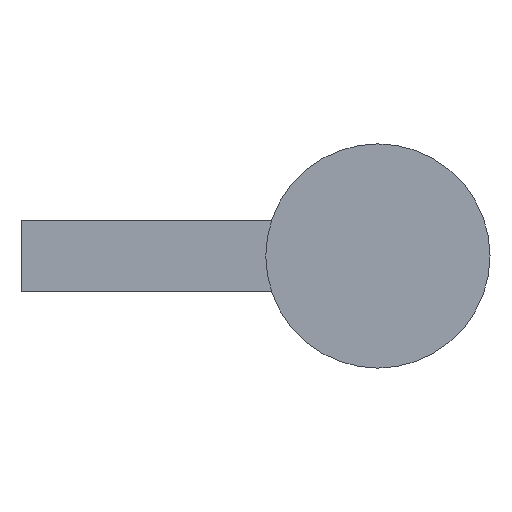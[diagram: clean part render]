
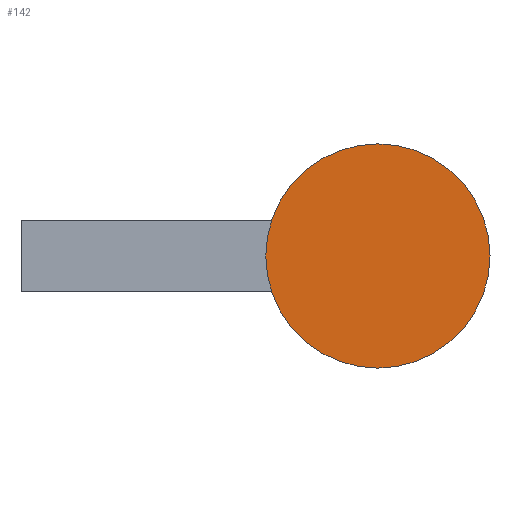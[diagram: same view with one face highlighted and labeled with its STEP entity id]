
A CAD part, top view. The second image highlights one B-rep face of the part: STEP entity #142.
In plain terms, the highlighted planar face has unit normal (0, 0, 1).
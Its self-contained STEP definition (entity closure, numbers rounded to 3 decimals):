
#142=ADVANCED_FACE('',(#305),#306,.T.);
#160=EDGE_CURVE('',#338,#338,#339,.T.);
#305=FACE_OUTER_BOUND('',#495,.T.);
#306=PLANE('',#496);
#338=VERTEX_POINT('',#530);
#339=CIRCLE('',#531,31.5);
#495=EDGE_LOOP('',(#726));
#496=AXIS2_PLACEMENT_3D('',#727,#728,#729);
#530=CARTESIAN_POINT('',(-31.5,0.0,50.5));
#531=AXIS2_PLACEMENT_3D('',#774,#775,#776);
#726=ORIENTED_EDGE('',*,*,#160,.F.);
#727=CARTESIAN_POINT('',(-15.75,0.0,50.5));
#728=DIRECTION('',(0.0,0.,1.0));
#729=DIRECTION('',(0.0,-1.0,0.));
#774=CARTESIAN_POINT('',(0.0,0.0,50.5));
#775=DIRECTION('',(-0.0,0.,-1.0));
#776=DIRECTION('',(-1.0,-0.0,0.0));
